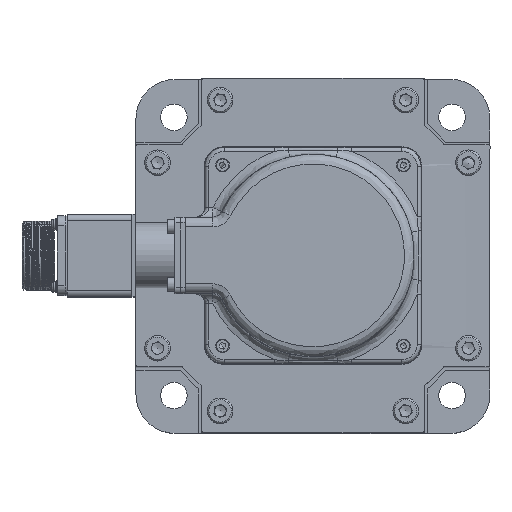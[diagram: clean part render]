
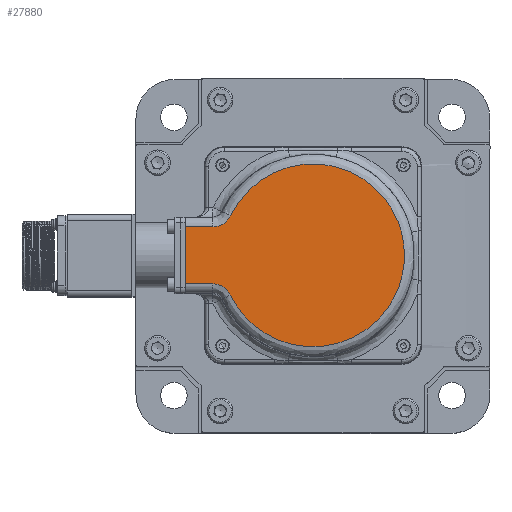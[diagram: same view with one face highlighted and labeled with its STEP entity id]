
A CAD part, top view. The second image highlights one B-rep face of the part: STEP entity #27880.
In plain terms, the highlighted planar face has unit normal (0, 0, 1).
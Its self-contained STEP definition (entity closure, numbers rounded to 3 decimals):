
#809 = CARTESIAN_POINT ( 'NONE',  ( -44.052, 17.16, 438. ) ) ;
#2006 = EDGE_LOOP ( 'NONE', ( #48631, #49666, #53841, #22903, #22164, #12270 ) ) ;
#3865 = CARTESIAN_POINT ( 'NONE',  ( 0., -14.5, 438. ) ) ;
#4472 = CARTESIAN_POINT ( 'NONE',  ( 46.5, 62.758, 438. ) ) ;
#5791 = CARTESIAN_POINT ( 'NONE',  ( -45.997, 15.778, 438. ) ) ;
#7722 = CARTESIAN_POINT ( 'NONE',  ( 0., 14.5, 438. ) ) ;
#9467 = CARTESIAN_POINT ( 'NONE',  ( 46.5, -62.758, 438. ) ) ;
#10802 = CARTESIAN_POINT ( 'NONE',  ( -47.4, 15.131, 438. ) ) ;
#11497 = EDGE_CURVE ( 'NONE', #51599, #28932, #45416, .T. ) ;
#12270 = ORIENTED_EDGE ( 'NONE', *, *, #42440, .T. ) ;
#12739 = DIRECTION ( 'NONE',  ( -1., 0., 0. ) ) ;
#14490 = CARTESIAN_POINT ( 'NONE',  ( -41.901, -20.164, 438. ) ) ;
#15606 = CARTESIAN_POINT ( 'NONE',  ( -42.44, 19.151, 438. ) ) ;
#15809 = CARTESIAN_POINT ( 'NONE',  ( -47.995, 14.934, 438. ) ) ;
#17783 = VERTEX_POINT ( 'NONE', #46803 ) ;
#18757 = CARTESIAN_POINT ( 'NONE',  ( -41.901, -20.164, 438. ) ) ;
#19394 = LINE ( 'NONE', #30480, #51456 ) ;
#20432 = CARTESIAN_POINT ( 'NONE',  ( -42.101, 19.748, 438. ) ) ;
#20633 = CARTESIAN_POINT ( 'NONE',  ( -43.155, 18.187, 438. ) ) ;
#20839 = CARTESIAN_POINT ( 'NONE',  ( -48.139, 14.892, 438. ) ) ;
#22164 = ORIENTED_EDGE ( 'NONE', *, *, #47598, .T. ) ;
#22624 = CARTESIAN_POINT ( 'NONE',  ( -50.912, 14.5, 438. ) ) ;
#22903 = ORIENTED_EDGE ( 'NONE', *, *, #50829, .T. ) ;
#23387 = AXIS2_PLACEMENT_3D ( 'NONE', #28802, #63809, #33874 ) ;
#25623 = CARTESIAN_POINT ( 'NONE',  ( -43.341, 17.967, 438. ) ) ;
#25833 = CARTESIAN_POINT ( 'NONE',  ( -49.084, 14.625, 438. ) ) ;
#27880 = ADVANCED_FACE ( 'NONE', ( #53730 ), #33654, .T. ) ;
#28802 = CARTESIAN_POINT ( 'NONE',  ( 0., 0., 438. ) ) ;
#28932 = VERTEX_POINT ( 'NONE', #54595 ) ;
#29313 = CARTESIAN_POINT ( 'NONE',  ( -41.901, 20.164, 438. ) ) ;
#30480 = CARTESIAN_POINT ( 'NONE',  ( -65., 0., 438. ) ) ;
#30665 = CARTESIAN_POINT ( 'NONE',  ( -43.397, 17.903, 438. ) ) ;
#30875 = CARTESIAN_POINT ( 'NONE',  ( -50.912, 14.5, 438. ) ) ;
#33654 = PLANE ( 'NONE',  #23387 ) ;
#33874 = DIRECTION ( 'NONE',  ( 1., 0., 0. ) ) ;
#34388 = CARTESIAN_POINT ( 'NONE',  ( -14.687, 76.715, 438. ) ) ;
#35719 = CARTESIAN_POINT ( 'NONE',  ( -44.777, 16.545, 438. ) ) ;
#35814 = B_SPLINE_CURVE_WITH_KNOTS ( 'NONE', 3,
 ( #60430, #20432, #15606, #50606, #20633, #55640, #25623, #60642, #30665, #809, #35719, #5791, #40770, #10802, #45813, #15809, #50814, #20839, #55845, #25833, #60852, #30875 ),
 .UNSPECIFIED., .F., .F.,
 ( 4, 1, 1, 1, 1, 2, 2, 2, 1, 1, 1, 1, 2, 2, 4 ),
 ( 0., 0.125, 0.188, 0.219, 0.234, 0.242, 0.25, 0.5, 0.625, 0.688, 0.719, 0.734, 0.742, 0.75, 1. ),
 .UNSPECIFIED. ) ;
#39438 = CARTESIAN_POINT ( 'NONE',  ( 46.5, 0., 438. ) ) ;
#40770 = CARTESIAN_POINT ( 'NONE',  ( -46.627, 15.442, 438. ) ) ;
#40971 = VERTEX_POINT ( 'NONE', #49312 ) ;
#41540 = VERTEX_POINT ( 'NONE', #63269 ) ;
#42440 = EDGE_CURVE ( 'NONE', #41540, #28932, #58582, .T. ) ;
#44473 = CARTESIAN_POINT ( 'NONE',  ( -14.687, -76.715, 438. ) ) ;
#45416 =( BOUNDED_CURVE ( )  B_SPLINE_CURVE ( 3, ( #64304, #53859, #54068, #53216 ),
 .UNSPECIFIED., .F., .F. ) 
 B_SPLINE_CURVE_WITH_KNOTS ( ( 4, 4 ),
 ( 0., 1. ),
 .UNSPECIFIED. ) 
 CURVE ( )  GEOMETRIC_REPRESENTATION_ITEM ( )  RATIONAL_B_SPLINE_CURVE ( ( 1., 0.898, 0.898, 1. ) ) 
 REPRESENTATION_ITEM ( '' )  );
#45813 = CARTESIAN_POINT ( 'NONE',  ( -47.795, 14.997, 438. ) ) ;
#46127 = VECTOR ( 'NONE', #12739, 1000. ) ;
#46334 = LINE ( 'NONE', #7722, #46127 ) ;
#46803 = CARTESIAN_POINT ( 'NONE',  ( -65., 14.5, 438. ) ) ;
#47598 = EDGE_CURVE ( 'NONE', #17783, #41540, #19394, .T. ) ;
#48631 = ORIENTED_EDGE ( 'NONE', *, *, #11497, .F. ) ;
#48862 = DIRECTION ( 'NONE',  ( 1., 0., 0. ) ) ;
#49312 = CARTESIAN_POINT ( 'NONE',  ( -41.901, 20.164, 438. ) ) ;
#49666 = ORIENTED_EDGE ( 'NONE', *, *, #59400, .F. ) ;
#50606 = CARTESIAN_POINT ( 'NONE',  ( -42.905, 18.5, 438. ) ) ;
#50633 = DIRECTION ( 'NONE',  ( 0., -1., 0. ) ) ;
#50814 = CARTESIAN_POINT ( 'NONE',  ( -48.081, 14.909, 438. ) ) ;
#50829 = EDGE_CURVE ( 'NONE', #57015, #17783, #46334, .T. ) ;
#51456 = VECTOR ( 'NONE', #50633, 1000. ) ;
#51599 = VERTEX_POINT ( 'NONE', #18757 ) ;
#52344 =( BOUNDED_CURVE ( )  B_SPLINE_CURVE ( 3, ( #29313, #34388, #4472, #39438, #9467, #44473, #14490 ),
 .UNSPECIFIED., .F., .T. ) 
 B_SPLINE_CURVE_WITH_KNOTS ( ( 4, 3, 4 ),
 ( 0., 0.5, 1. ),
 .UNSPECIFIED. ) 
 CURVE ( )  GEOMETRIC_REPRESENTATION_ITEM ( )  RATIONAL_B_SPLINE_CURVE ( ( 1., 0.482, 0.482, 1., 0.482, 0.482, 1. ) ) 
 REPRESENTATION_ITEM ( '' )  );
#53216 = CARTESIAN_POINT ( 'NONE',  ( -50.912, -14.5, 438. ) ) ;
#53730 = FACE_OUTER_BOUND ( 'NONE', #2006, .T. ) ;
#53841 = ORIENTED_EDGE ( 'NONE', *, *, #57157, .T. ) ;
#53859 = CARTESIAN_POINT ( 'NONE',  ( -43.614, -16.603, 438. ) ) ;
#54068 = CARTESIAN_POINT ( 'NONE',  ( -46.96, -14.5, 438. ) ) ;
#54595 = CARTESIAN_POINT ( 'NONE',  ( -50.912, -14.5, 438. ) ) ;
#55640 = CARTESIAN_POINT ( 'NONE',  ( -43.284, 18.032, 438. ) ) ;
#55845 = CARTESIAN_POINT ( 'NONE',  ( -48.169, 14.883, 438. ) ) ;
#57015 = VERTEX_POINT ( 'NONE', #22624 ) ;
#57157 = EDGE_CURVE ( 'NONE', #40971, #57015, #35814, .T. ) ;
#58582 = LINE ( 'NONE', #3865, #59039 ) ;
#59039 = VECTOR ( 'NONE', #48862, 1000. ) ;
#59400 = EDGE_CURVE ( 'NONE', #40971, #51599, #52344, .T. ) ;
#60430 = CARTESIAN_POINT ( 'NONE',  ( -41.901, 20.164, 438. ) ) ;
#60642 = CARTESIAN_POINT ( 'NONE',  ( -43.378, 17.924, 438. ) ) ;
#60852 = CARTESIAN_POINT ( 'NONE',  ( -49.989, 14.5, 438. ) ) ;
#63269 = CARTESIAN_POINT ( 'NONE',  ( -65., -14.5, 438. ) ) ;
#63809 = DIRECTION ( 'NONE',  ( 0., 0., 1. ) ) ;
#64304 = CARTESIAN_POINT ( 'NONE',  ( -41.901, -20.164, 438. ) ) ;
